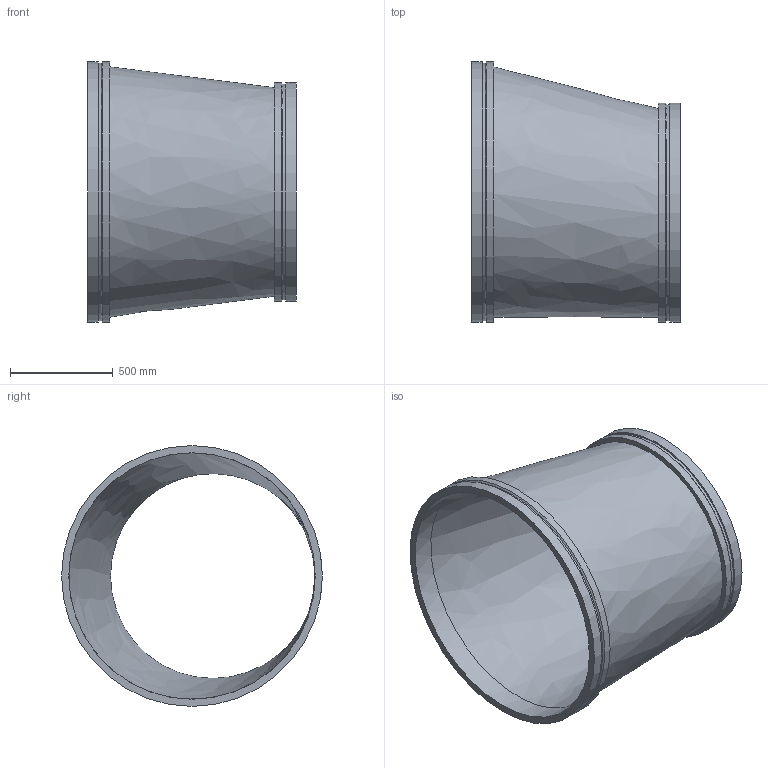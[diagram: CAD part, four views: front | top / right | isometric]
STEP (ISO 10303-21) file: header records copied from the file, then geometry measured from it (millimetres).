
FILE_DESCRIPTION(/* description */ ('VIC REDUCER ECCENTRIC No W51-VR','CAx-IF Rec.Pracs.---Representation and Presentation of Product Manufacturing Information (PMI)---4.0---2014-10-13'),/* implementation_level */ '2;1');
FILE_NAME(/* name */ 'C:\Users\kkamble\AppData\Roaming\Autodesk\ApplicationPlugins\Back Up\Victaulic_Vic-Ring_Reducer Eccentric_No W51 VR (AGR)\Victaulic_Vic-Ring_Reducer Eccentric_No W51 VR (AGR)_48.0x40.0 (1200x1000).stp',/* time_stamp */ '2020-09-10T11:51:32+05:00',/* author */ ('CONSTRUCTION PIPING SERVICES'),/* organization */ ('Victaulic'),/* preprocessor_version */ 'ST-DEVELOPER v17.2',/* originating_system */ 'Autodesk Inventor 2019',/* authorisation */ '');
FILE_SCHEMA (('AP242_MANAGED_MODEL_BASED_3D_ENGINEERING_MIM_LF { 1 0 10303 442 1 1 4 }'));
Length unit declared in the file: inch
Products named in the file (1): W51 VR-48.0x40.0
Bounding box: 1016 x 1270 x 1270 mm (x, y, z)
Volume: 52387070.8 mm3; surface area: 7689021.3 mm2
Topology: 1 solids, 1 shells, 18 faces, 49 edges, 37 vertices
Faces by surface type: cylinder 8, plane 6, cone 2, bspline 2
Full cylindrical faces by diameter (mm): 996.95 x1, 1050.925 x1, 1066.8 x2, 1200.15 x1, 1254.125 x1, 1270 x2
Entity records: 792 total; most frequent: CARTESIAN_POINT 158, DIRECTION 144, ORIENTED_EDGE 98, AXIS2_PLACEMENT_3D 67, EDGE_CURVE 49, CIRCLE 37, VERTEX_POINT 37, EDGE_LOOP 24
